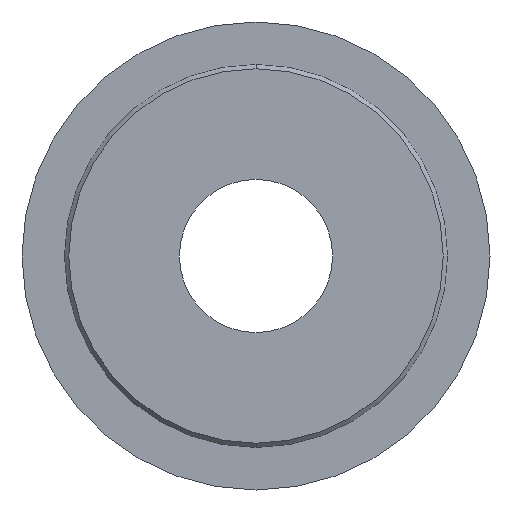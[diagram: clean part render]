
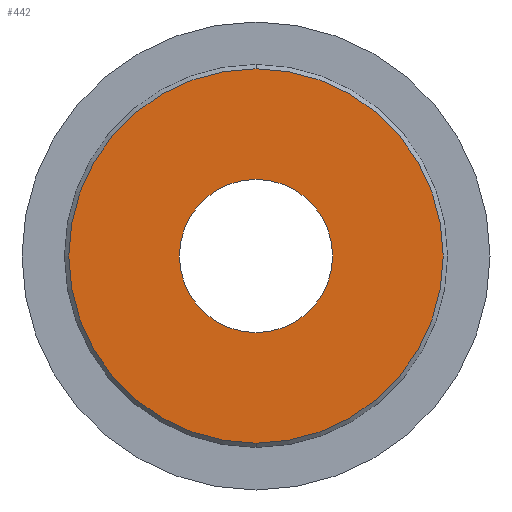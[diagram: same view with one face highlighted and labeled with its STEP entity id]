
A CAD part, front view. The second image highlights one B-rep face of the part: STEP entity #442.
In plain terms, the highlighted planar face has unit normal (0, -1, 0).
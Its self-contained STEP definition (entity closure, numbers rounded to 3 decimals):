
#19 = CIRCLE ( 'NONE', #431, 44. ) ;
#23 = DIRECTION ( 'NONE',  ( 0., 0., 1. ) ) ;
#43 = AXIS2_PLACEMENT_3D ( 'NONE', #395, #360, #233 ) ;
#63 = CIRCLE ( 'NONE', #415, 44. ) ;
#64 = DIRECTION ( 'NONE',  ( 0., -1., 0. ) ) ;
#65 = DIRECTION ( 'NONE',  ( 0., -1., 0. ) ) ;
#70 = VERTEX_POINT ( 'NONE', #120 ) ;
#81 = ORIENTED_EDGE ( 'NONE', *, *, #293, .T. ) ;
#83 = FACE_OUTER_BOUND ( 'NONE', #369, .T. ) ;
#97 = CARTESIAN_POINT ( 'NONE',  ( -18., 0., 0. ) ) ;
#101 = VERTEX_POINT ( 'NONE', #218 ) ;
#111 = AXIS2_PLACEMENT_3D ( 'NONE', #97, #422, #146 ) ;
#112 = CARTESIAN_POINT ( 'NONE',  ( 0., 0., -44. ) ) ;
#113 = VERTEX_POINT ( 'NONE', #112 ) ;
#120 = CARTESIAN_POINT ( 'NONE',  ( 0., 0., 44. ) ) ;
#146 = DIRECTION ( 'NONE',  ( 0., 0., 1. ) ) ;
#160 = CARTESIAN_POINT ( 'NONE',  ( 0., 0., 0. ) ) ;
#163 = DIRECTION ( 'NONE',  ( 0., 0., -1. ) ) ;
#190 = CARTESIAN_POINT ( 'NONE',  ( 0., 0., 0. ) ) ;
#215 = AXIS2_PLACEMENT_3D ( 'NONE', #160, #65, #163 ) ;
#218 = CARTESIAN_POINT ( 'NONE',  ( 0., 0., 18. ) ) ;
#233 = DIRECTION ( 'NONE',  ( 0., 0., -1. ) ) ;
#242 = EDGE_LOOP ( 'NONE', ( #439, #244 ) ) ;
#244 = ORIENTED_EDGE ( 'NONE', *, *, #377, .F. ) ;
#260 = ORIENTED_EDGE ( 'NONE', *, *, #356, .T. ) ;
#263 = DIRECTION ( 'NONE',  ( 0., -1., 0. ) ) ;
#266 = PLANE ( 'NONE',  #111 ) ;
#289 = CIRCLE ( 'NONE', #43, 18. ) ;
#293 = EDGE_CURVE ( 'NONE', #70, #113, #19, .T. ) ;
#300 = CARTESIAN_POINT ( 'NONE',  ( 0., 0., 0. ) ) ;
#328 = DIRECTION ( 'NONE',  ( 0., 0., 1. ) ) ;
#330 = CARTESIAN_POINT ( 'NONE',  ( 0., 0., -18. ) ) ;
#356 = EDGE_CURVE ( 'NONE', #113, #70, #63, .T. ) ;
#360 = DIRECTION ( 'NONE',  ( 0., -1., 0. ) ) ;
#366 = EDGE_CURVE ( 'NONE', #376, #101, #401, .T. ) ;
#369 = EDGE_LOOP ( 'NONE', ( #81, #260 ) ) ;
#376 = VERTEX_POINT ( 'NONE', #330 ) ;
#377 = EDGE_CURVE ( 'NONE', #101, #376, #289, .T. ) ;
#395 = CARTESIAN_POINT ( 'NONE',  ( 0., 0., 0. ) ) ;
#398 = FACE_BOUND ( 'NONE', #242, .T. ) ;
#401 = CIRCLE ( 'NONE', #215, 18. ) ;
#415 = AXIS2_PLACEMENT_3D ( 'NONE', #300, #263, #328 ) ;
#422 = DIRECTION ( 'NONE',  ( 0., 1., 0. ) ) ;
#431 = AXIS2_PLACEMENT_3D ( 'NONE', #190, #64, #23 ) ;
#439 = ORIENTED_EDGE ( 'NONE', *, *, #366, .F. ) ;
#442 = ADVANCED_FACE ( 'NONE', ( #83, #398 ), #266, .F. ) ;
